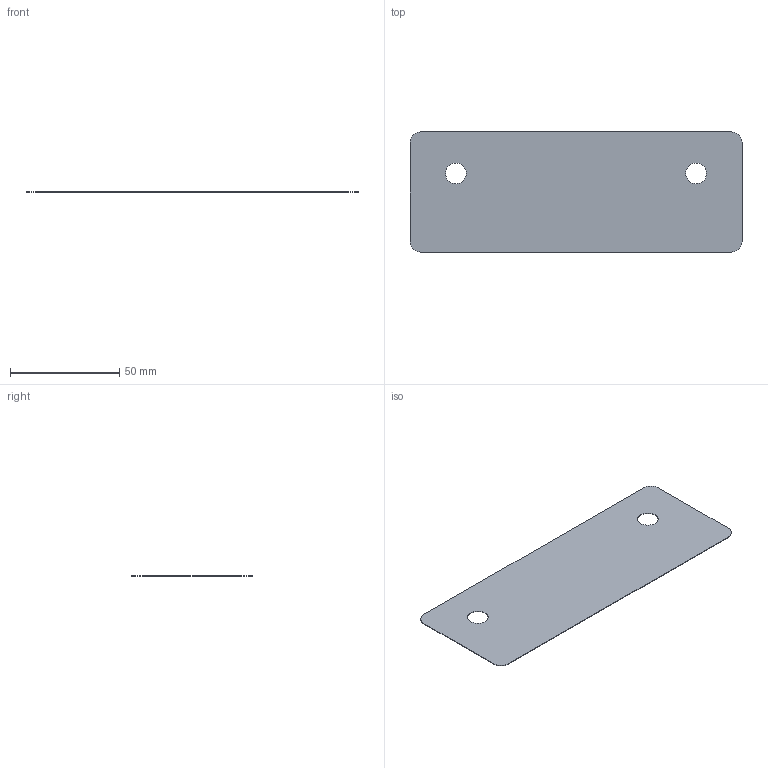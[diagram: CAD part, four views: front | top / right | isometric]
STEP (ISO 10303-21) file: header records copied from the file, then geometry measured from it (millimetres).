
FILE_DESCRIPTION(/* description */ ('CALE MYLAR PIED 2','CAx-IF Rec.Pracs.---Representation and Presentation of Product Manufacturing Information (PMI)---4.0---2014-10-13'),/* implementation_level */ '2;1');
FILE_NAME(/* name */ 'vv340040-A.stp',/* time_stamp */ '2025-09-24T13:43:23+02:00',/* author */ ('mmartin'),/* organization */ (''),/* preprocessor_version */ 'ST-DEVELOPER v20',/* originating_system */ 'Autodesk Inventor 2025',/* authorisation */ '');
FILE_SCHEMA (('AP242_MANAGED_MODEL_BASED_3D_ENGINEERING_MIM_LF { 1 0 10303 442 1 1 4 }'));
Length unit declared in the file: millimetre
Products named in the file (1): VICTOR.V.34.00.40
Bounding box: 152 x 55 x 0.25 mm (x, y, z)
Volume: 2049.2 mm3; surface area: 16509.8 mm2
Topology: 1 solids, 1 shells, 12 faces, 30 edges, 20 vertices
Faces by surface type: cylinder 6, plane 6
Full cylindrical faces by diameter (mm): 9.5 x2
Entity records: 489 total; most frequent: DIRECTION 80, CARTESIAN_POINT 79, ORIENTED_EDGE 60, AXIS2_PLACEMENT_3D 31, EDGE_CURVE 30, VERTEX_POINT 20, LINE 18, VECTOR 18
